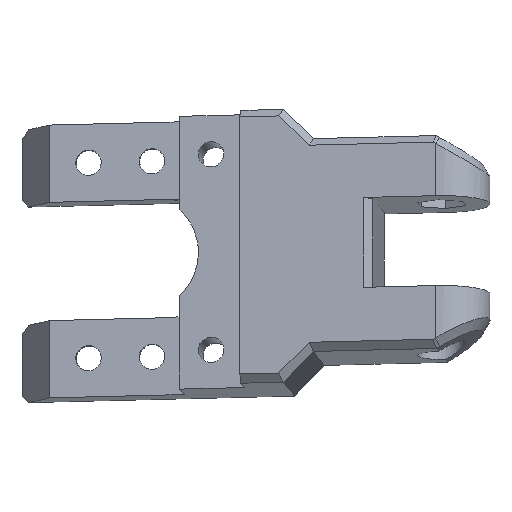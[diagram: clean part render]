
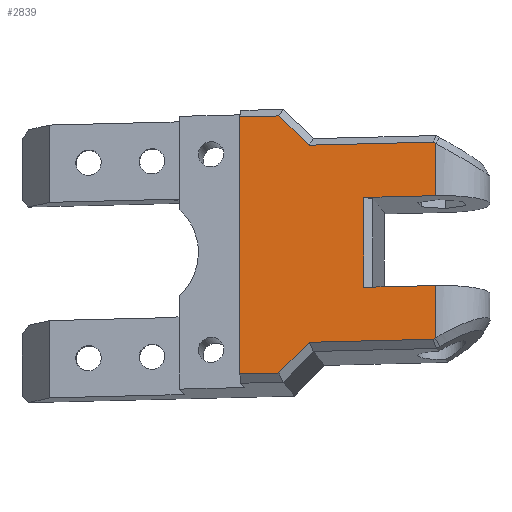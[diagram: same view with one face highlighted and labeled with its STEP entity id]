
A CAD part, top view. The second image highlights one B-rep face of the part: STEP entity #2839.
In plain terms, the highlighted planar face has unit normal (-0.139, 0.172, 0.975).
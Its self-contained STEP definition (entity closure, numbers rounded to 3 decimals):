
#186=FACE_OUTER_BOUND('',#347,.T.);
#347=EDGE_LOOP('',(#1947,#1948,#1949,#1950,#1951,#1952,#1953,#1954,#1955,
#1956,#1957,#1958,#1959,#1960));
#503=B_SPLINE_CURVE_WITH_KNOTS('',3,(#4173,#4174,#4175,#4176),
 .UNSPECIFIED.,.F.,.F.,(4,4),(-1.654,-1.609),
 .UNSPECIFIED.);
#509=B_SPLINE_CURVE_WITH_KNOTS('',3,(#4430,#4431,#4432,#4433),
 .UNSPECIFIED.,.F.,.F.,(4,4),(1.609,1.654),
 .UNSPECIFIED.);
#526=LINE('',#4185,#826);
#539=LINE('',#4447,#839);
#591=LINE('',#4595,#891);
#592=LINE('',#4599,#892);
#593=LINE('',#4601,#893);
#594=LINE('',#4603,#894);
#595=LINE('',#4604,#895);
#596=LINE('',#4606,#896);
#597=LINE('',#4608,#897);
#598=LINE('',#4610,#898);
#599=LINE('',#4612,#899);
#600=LINE('',#4613,#900);
#826=VECTOR('',#3227,10.);
#839=VECTOR('',#3258,10.);
#891=VECTOR('',#3316,10.);
#892=VECTOR('',#3321,10.);
#893=VECTOR('',#3322,10.);
#894=VECTOR('',#3323,10.);
#895=VECTOR('',#3324,10.);
#896=VECTOR('',#3325,10.);
#897=VECTOR('',#3326,10.);
#898=VECTOR('',#3327,10.);
#899=VECTOR('',#3328,10.);
#900=VECTOR('',#3329,10.);
#1127=VERTEX_POINT('',#4014);
#1130=VERTEX_POINT('',#4172);
#1131=VERTEX_POINT('',#4184);
#1141=VERTEX_POINT('',#4272);
#1144=VERTEX_POINT('',#4429);
#1147=VERTEX_POINT('',#4445);
#1198=VERTEX_POINT('',#4594);
#1199=VERTEX_POINT('',#4598);
#1200=VERTEX_POINT('',#4600);
#1201=VERTEX_POINT('',#4602);
#1202=VERTEX_POINT('',#4605);
#1203=VERTEX_POINT('',#4607);
#1204=VERTEX_POINT('',#4609);
#1205=VERTEX_POINT('',#4611);
#1411=EDGE_CURVE('',#1127,#1130,#503,.T.);
#1413=EDGE_CURVE('',#1130,#1131,#526,.T.);
#1432=EDGE_CURVE('',#1144,#1141,#509,.T.);
#1437=EDGE_CURVE('',#1147,#1144,#539,.T.);
#1492=EDGE_CURVE('',#1141,#1198,#591,.T.);
#1494=EDGE_CURVE('',#1199,#1127,#592,.T.);
#1495=EDGE_CURVE('',#1199,#1200,#593,.T.);
#1496=EDGE_CURVE('',#1200,#1201,#594,.T.);
#1497=EDGE_CURVE('',#1198,#1201,#595,.T.);
#1498=EDGE_CURVE('',#1202,#1147,#596,.T.);
#1499=EDGE_CURVE('',#1203,#1202,#597,.T.);
#1500=EDGE_CURVE('',#1203,#1204,#598,.T.);
#1501=EDGE_CURVE('',#1205,#1204,#599,.T.);
#1502=EDGE_CURVE('',#1131,#1205,#600,.T.);
#1947=ORIENTED_EDGE('',*,*,#1411,.F.);
#1948=ORIENTED_EDGE('',*,*,#1494,.F.);
#1949=ORIENTED_EDGE('',*,*,#1495,.T.);
#1950=ORIENTED_EDGE('',*,*,#1496,.T.);
#1951=ORIENTED_EDGE('',*,*,#1497,.F.);
#1952=ORIENTED_EDGE('',*,*,#1492,.F.);
#1953=ORIENTED_EDGE('',*,*,#1432,.F.);
#1954=ORIENTED_EDGE('',*,*,#1437,.F.);
#1955=ORIENTED_EDGE('',*,*,#1498,.F.);
#1956=ORIENTED_EDGE('',*,*,#1499,.F.);
#1957=ORIENTED_EDGE('',*,*,#1500,.T.);
#1958=ORIENTED_EDGE('',*,*,#1501,.F.);
#1959=ORIENTED_EDGE('',*,*,#1502,.F.);
#1960=ORIENTED_EDGE('',*,*,#1413,.F.);
#2705=PLANE('',#3010);
#2839=ADVANCED_FACE('',(#186),#2705,.T.);
#3010=AXIS2_PLACEMENT_3D('',#4597,#3319,#3320);
#3227=DIRECTION('',(-0.99,-0.024,-0.137));
#3258=DIRECTION('',(0.99,0.024,0.137));
#3316=DIRECTION('',(0.,-0.985,0.174));
#3319=DIRECTION('center_axis',(-0.139,0.172,0.975));
#3320=DIRECTION('ref_axis',(-0.99,-0.024,-0.137));
#3321=DIRECTION('',(0.,-0.985,0.174));
#3322=DIRECTION('',(-0.99,-0.024,-0.137));
#3323=DIRECTION('',(0.,0.985,-0.174));
#3324=DIRECTION('',(-0.99,-0.024,-0.137));
#3325=DIRECTION('',(0.7,-0.679,0.22));
#3326=DIRECTION('',(0.99,0.024,0.137));
#3327=DIRECTION('',(0.,-0.985,0.174));
#3328=DIRECTION('',(-0.99,-0.024,-0.137));
#3329=DIRECTION('',(-0.7,-0.713,0.026));
#4014=CARTESIAN_POINT('',(102.356,-304.935,54.192));
#4172=CARTESIAN_POINT('',(102.091,-305.093,54.182));
#4173=CARTESIAN_POINT('Ctrl Pts',(102.356,-304.935,54.192));
#4174=CARTESIAN_POINT('Ctrl Pts',(102.267,-304.988,54.189));
#4175=CARTESIAN_POINT('Ctrl Pts',(102.179,-305.041,54.185));
#4176=CARTESIAN_POINT('Ctrl Pts',(102.091,-305.093,54.182));
#4184=CARTESIAN_POINT('',(86.597,-305.472,52.038));
#4185=CARTESIAN_POINT('',(100.484,-305.133,53.96));
#4272=CARTESIAN_POINT('',(102.356,-280.619,49.904));
#4429=CARTESIAN_POINT('',(102.091,-280.473,49.841));
#4430=CARTESIAN_POINT('Ctrl Pts',(102.091,-280.473,49.841));
#4431=CARTESIAN_POINT('Ctrl Pts',(102.179,-280.522,49.862));
#4432=CARTESIAN_POINT('Ctrl Pts',(102.267,-280.57,49.883));
#4433=CARTESIAN_POINT('Ctrl Pts',(102.356,-280.619,49.904));
#4445=CARTESIAN_POINT('',(86.597,-280.851,47.696));
#4447=CARTESIAN_POINT('',(94.295,-280.664,48.762));
#4594=CARTESIAN_POINT('',(102.356,-287.163,51.058));
#4595=CARTESIAN_POINT('',(102.356,-275.05,48.923));
#4597=CARTESIAN_POINT('Origin',(98.612,-275.142,48.404));
#4598=CARTESIAN_POINT('',(102.356,-298.39,53.038));
#4599=CARTESIAN_POINT('',(102.356,-275.05,48.923));
#4600=CARTESIAN_POINT('',(93.444,-298.608,51.805));
#4601=CARTESIAN_POINT('',(87.169,-298.761,50.936));
#4602=CARTESIAN_POINT('',(93.444,-287.381,49.825));
#4603=CARTESIAN_POINT('',(93.444,-284.365,49.293));
#4604=CARTESIAN_POINT('',(87.169,-287.534,48.957));
#4605=CARTESIAN_POINT('',(82.834,-277.201,46.516));
#4606=CARTESIAN_POINT('',(87.599,-281.823,48.011));
#4607=CARTESIAN_POINT('',(77.946,-277.32,45.839));
#4608=CARTESIAN_POINT('',(87.169,-277.095,47.116));
#4609=CARTESIAN_POINT('',(77.946,-309.425,51.5));
#4610=CARTESIAN_POINT('',(77.946,-284.605,47.124));
#4611=CARTESIAN_POINT('',(82.834,-309.306,52.177));
#4612=CARTESIAN_POINT('',(87.169,-309.2,52.777));
#4613=CARTESIAN_POINT('',(94.407,-297.514,51.749));
